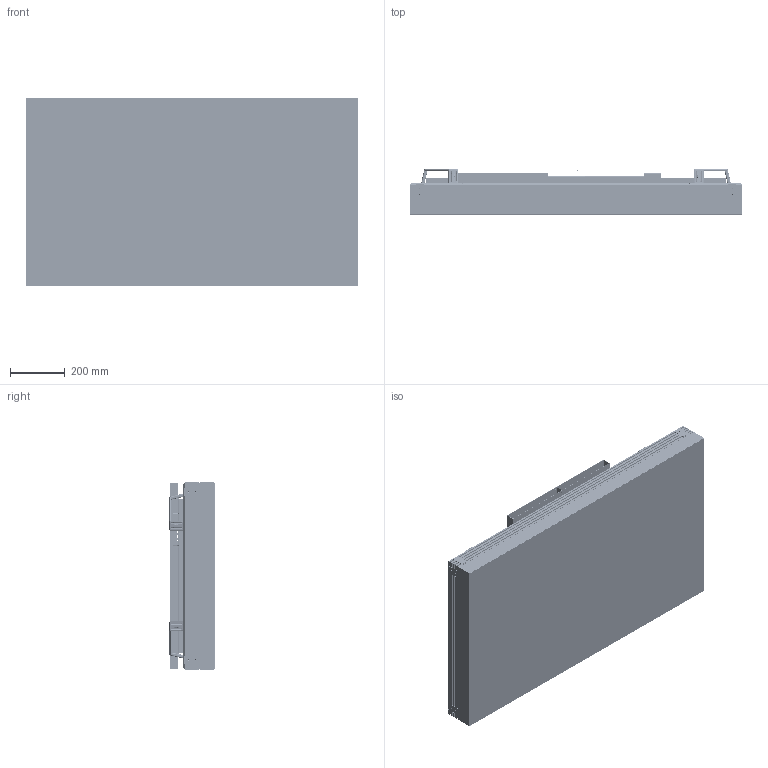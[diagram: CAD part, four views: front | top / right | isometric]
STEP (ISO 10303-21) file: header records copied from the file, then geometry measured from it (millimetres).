
FILE_DESCRIPTION (( 'STEP AP214' ), '1' );
FILE_NAME ('MT0901091-LWLR.STEP', '2018-10-08T12:18:07', ( '' ), ( '' ), 'SwSTEP 2.0', 'SolidWorks 2018', '' );
FILE_SCHEMA (( 'AUTOMOTIVE_DESIGN' ));
Length unit declared in the file: millimetre
Products named in the file (1): MT0901091-LWLR
Bounding box: 1214.44 x 165.14 x 685.24 mm (x, y, z)
Volume: 7092943.6 mm3; surface area: 6753185.7 mm2
Topology: 60 solids, 60 shells, 4414 faces, 11733 edges, 7476 vertices
Faces by surface type: plane 2413, cylinder 1614, bspline 208, cone 137, torus 42
Full cylindrical faces by diameter (mm): 2.05 x14, 2.5 x30, 3.2 x32, 3.3 x20, 3.4 x16, 4.2 x28, 4.5 x123, 5 x9, 5.4 x62, 5.41 x2, 5.5 x16, 6 x30, 6.4 x16, 6.8 x28, 7 x2, 7.5 x18, 8 x20, 8.5 x12, 9 x4, 10 x14, 10.5 x28
Entity records: 173725 total; most frequent: CARTESIAN_POINT 42734, ORIENTED_EDGE 21758, DIRECTION 21561, EDGE_CURVE 10879, AXIS2_PLACEMENT_3D 7305, VERTEX_POINT 7275, LINE 6951, VECTOR 6951
